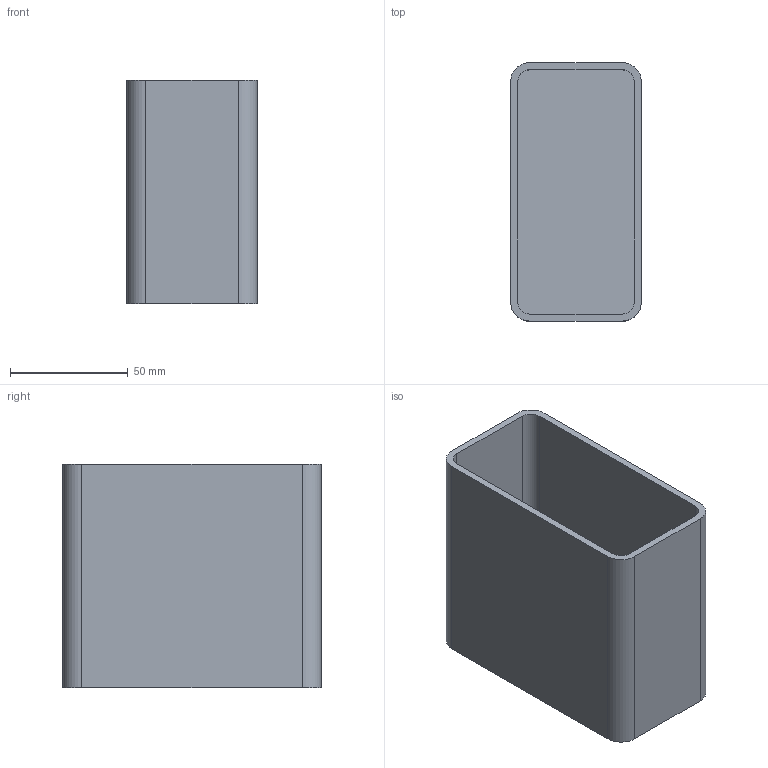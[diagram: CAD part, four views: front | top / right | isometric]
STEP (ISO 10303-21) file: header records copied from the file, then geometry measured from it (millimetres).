
FILE_DESCRIPTION(('Open CASCADE Model'),'2;1');
FILE_NAME('Open CASCADE Shape Model','2026-11-06T19:21:01',('Author'),( 'Open CASCADE'),'Open CASCADE STEP processor 8.0','Open CASCADE 8.0' ,'Unknown');
FILE_SCHEMA(('AUTOMOTIVE_DESIGN { 1 0 10303 214 1 1 1 1 }'));
Length unit declared in the file: millimetre
Products named in the file (1): Open CASCADE STEP translator 8.0 5
Bounding box: 55.5 x 110 x 95 mm (x, y, z)
Volume: 103114.2 mm3; surface area: 69694.6 mm2
Topology: 1 solids, 1 shells, 19 faces, 48 edges, 32 vertices
Faces by surface type: plane 11, cylinder 8
Entity records: 1222 total; most frequent: CARTESIAN_POINT 240, DIRECTION 186, LINE 104, VECTOR 104, ORIENTED_EDGE 96, PCURVE 96, DEFINITIONAL_REPRESENTATION 96, EDGE_CURVE 48
